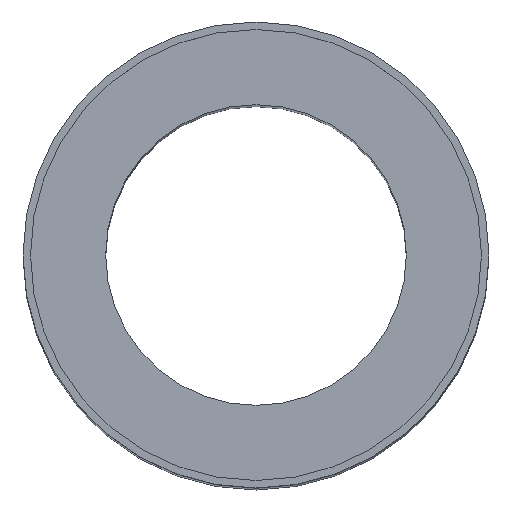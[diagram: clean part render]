
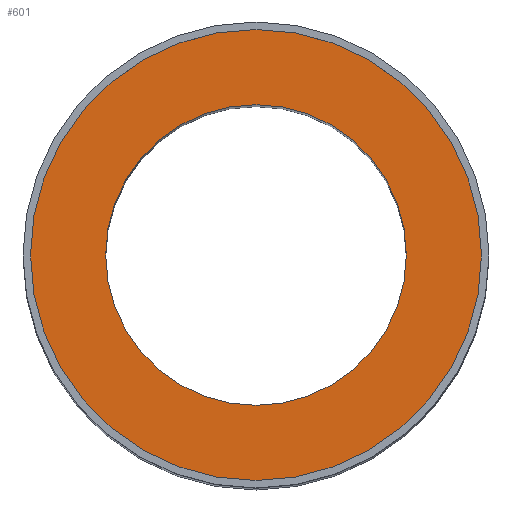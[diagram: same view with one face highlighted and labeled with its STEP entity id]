
A CAD part, top view. The second image highlights one B-rep face of the part: STEP entity #601.
In plain terms, the highlighted planar face has unit normal (0, 0, 1).
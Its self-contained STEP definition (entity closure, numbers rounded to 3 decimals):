
#135=CARTESIAN_POINT('',(-30.0,0.,153.0));
#136=VERTEX_POINT('',#135);
#152=CARTESIAN_POINT('',(30.0,0.,153.0));
#153=VERTEX_POINT('',#152);
#160=CARTESIAN_POINT('',(0.0,0.0,153.0));
#161=DIRECTION('',(0.0,0.0,-1.0));
#162=DIRECTION('',(-1.0,0.0,0.0));
#163=AXIS2_PLACEMENT_3D('',#160,#161,#162);
#164=CIRCLE('',#163,30.0);
#165=EDGE_CURVE('',#153,#136,#164,.T.);
#175=CARTESIAN_POINT('',(-20.0,0.,153.0));
#176=VERTEX_POINT('',#175);
#185=CARTESIAN_POINT('',(20.0,0.,153.0));
#186=VERTEX_POINT('',#185);
#187=CARTESIAN_POINT('',(0.0,0.0,153.0));
#188=DIRECTION('',(0.0,0.0,-1.0));
#189=DIRECTION('',(-1.0,0.0,0.0));
#190=AXIS2_PLACEMENT_3D('',#187,#188,#189);
#191=CIRCLE('',#190,20.0);
#192=EDGE_CURVE('',#186,#176,#191,.T.);
#552=CARTESIAN_POINT('',(0.0,0.0,153.0));
#553=DIRECTION('',(0.0,0.0,-1.0));
#554=DIRECTION('',(-1.0,0.0,0.0));
#555=AXIS2_PLACEMENT_3D('',#552,#553,#554);
#556=CIRCLE('',#555,20.0);
#557=EDGE_CURVE('',#176,#186,#556,.T.);
#582=CARTESIAN_POINT('',(0.0,0.0,153.0));
#583=DIRECTION('',(0.0,0.0,-1.0));
#584=DIRECTION('',(-1.0,0.0,0.0));
#585=AXIS2_PLACEMENT_3D('',#582,#583,#584);
#586=PLANE('',#585);
#587=ORIENTED_EDGE('',*,*,#165,.F.);
#588=CARTESIAN_POINT('',(0.0,0.0,153.0));
#589=DIRECTION('',(0.0,0.0,-1.0));
#590=DIRECTION('',(-1.0,0.0,0.0));
#591=AXIS2_PLACEMENT_3D('',#588,#589,#590);
#592=CIRCLE('',#591,30.0);
#593=EDGE_CURVE('',#136,#153,#592,.T.);
#594=ORIENTED_EDGE('',*,*,#593,.F.);
#595=EDGE_LOOP('',(#587,#594));
#596=FACE_OUTER_BOUND('',#595,.T.);
#597=ORIENTED_EDGE('',*,*,#192,.T.);
#598=ORIENTED_EDGE('',*,*,#557,.T.);
#599=EDGE_LOOP('',(#597,#598));
#600=FACE_BOUND('',#599,.T.);
#601=ADVANCED_FACE('',(#596,#600),#586,.F.);
